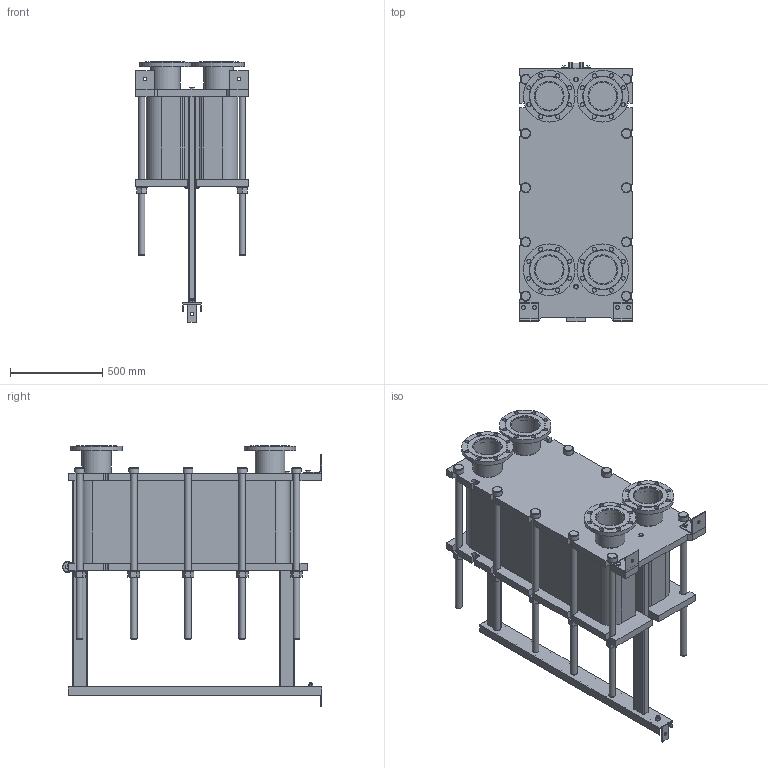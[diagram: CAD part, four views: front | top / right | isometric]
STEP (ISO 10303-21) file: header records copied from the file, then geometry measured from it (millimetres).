
FILE_DESCRIPTION(/* description */ (''),/* implementation_level */ '2;1');
FILE_NAME(/* name */ 'C:\Users\zhuro\Desktop\ENCO\TO\ЭН-041\ЭН-0,5-041-130-1.stp',/* time_stamp */ '2022-06-06T11:00:15+03:00',/* author */ ('zhuro'),/* organization */ (''),/* preprocessor_version */ 'ST-DEVELOPER v18.1',/* originating_system */ 'Autodesk Inventor 2022',/* authorisation */ '');
FILE_SCHEMA (('AUTOMOTIVE_DESIGN { 1 0 10303 214 3 1 1 }'));
Length unit declared in the file: millimetre
Products named in the file (1): ЭН-0,5-041-130-1
Bounding box: 610 x 1406.5 x 1415 mm (x, y, z)
Volume: 334834448.2 mm3; surface area: 9685986.5 mm2
Topology: 52 solids, 52 shells, 711 faces, 1696 edges, 1094 vertices
Faces by surface type: plane 487, cylinder 177, cone 41, torus 6
Full cylindrical faces by diameter (mm): 8 x4, 10 x2, 16 x8, 18 x3, 22 x32, 36 x24, 50 x1, 54 x10, 60 x12, 151 x4, 161 x8, 280 x4
Entity records: 22667 total; most frequent: CARTESIAN_POINT 5230, DIRECTION 3644, ORIENTED_EDGE 3392, EDGE_CURVE 1696, AXIS2_PLACEMENT_3D 1272, LINE 1100, VECTOR 1100, VERTEX_POINT 1094
